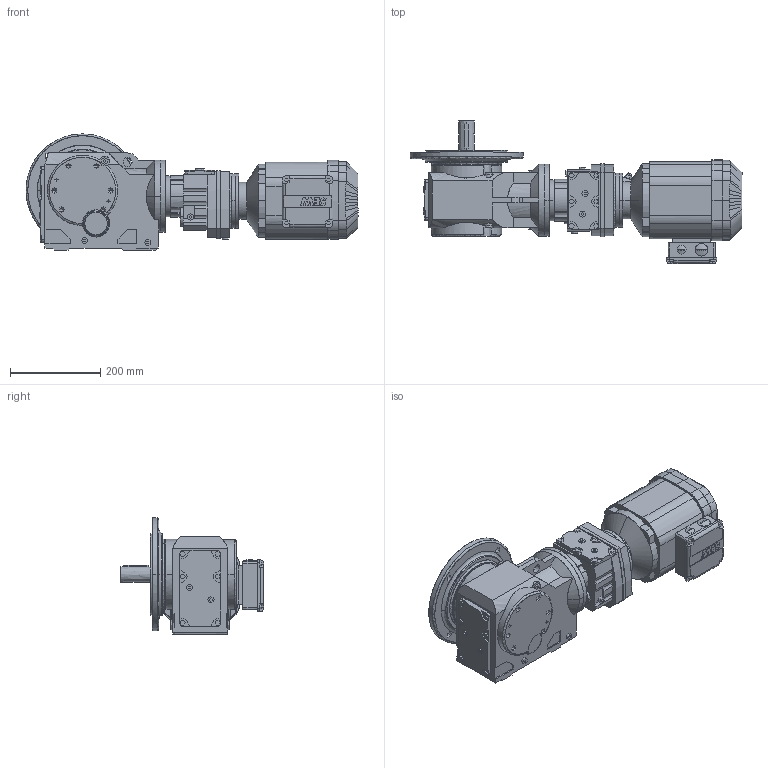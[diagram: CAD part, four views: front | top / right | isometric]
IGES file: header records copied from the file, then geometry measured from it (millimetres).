
Start section: Data from XPlus IGES,  Spatial Corp. Copyright (c) 1999-2006 .
Global section: file name: KF57R37DRE90M434bc1f46-9403-4b5b-9454-9f8cb7c8a441.igs; native system:  By Spatial Corp.; preprocessor: XPlus ACIS/IGES; author: SEW-EURODRIVE GmbH & Co KG; organization: CADClick - KiM GmbH - www.kimweb.de; date: 20111223.152523; units: millimetre
Bounding box: 734.5 x 316.5 x 257 mm (x, y, z)
Surface area: 715336.3 mm2 (no closed solid volume)
Topology: 0 solids, 0 shells, 1095 faces, 6481 edges, 6438 vertices
Faces by surface type: bspline 1095
